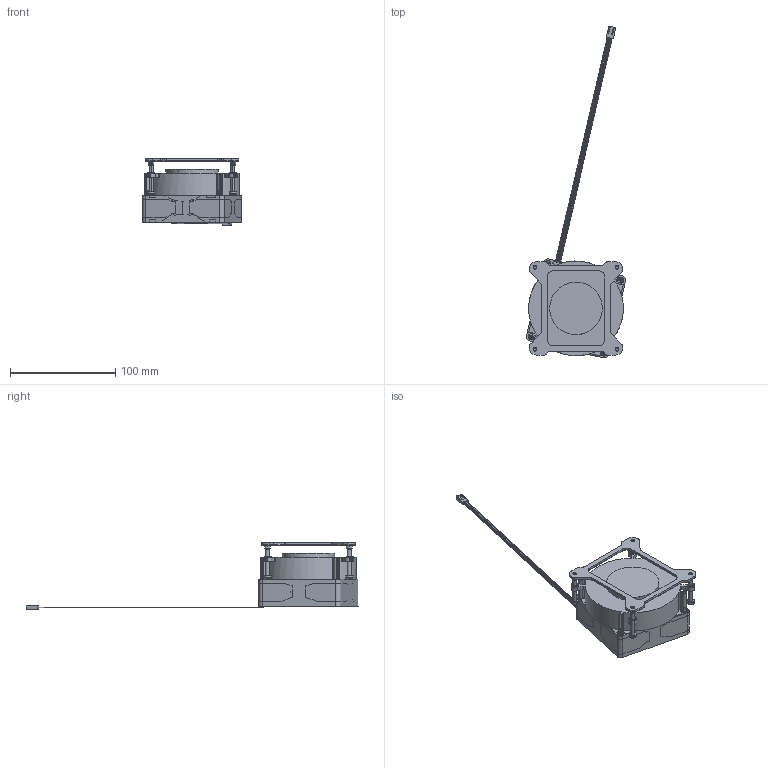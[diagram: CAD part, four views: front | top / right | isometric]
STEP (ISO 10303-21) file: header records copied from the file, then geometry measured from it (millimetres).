
FILE_DESCRIPTION((''),'2;1');
FILE_NAME('RGD3229-50-002_ME_ASM','2022-10-11T',('User'),(''),'PRO/ENGINEER BY PARAMETRIC TECHNOLOGY CORPORATION, 2017170','PRO/ENGINEER BY PARAMETRIC TECHNOLOGY CORPORATION, 2017170','');
FILE_SCHEMA(('CONFIG_CONTROL_DESIGN'));
Products named in the file (24): D90X25A_C_1; 23MM_CPB_1; 78X78X25_D90_CPB_1_ASM_1_ASM; 78X78X25_D90_CPB_ASM_1_ASM; DEAKTOP_SCREW_D7_30_8L_1; E-RING_1; DESKTOP_SCREW_ASSY_ASM_1_ASM; R8025_20191212_1; FAN_LEAF_1; MANIFOLD_SOLID_BREP_47147; MANIFOLD_SOLID_BREP_47266; MANIFOLD_SOLID_BREP_51725; 4PIN_1_ASM; R128025BUAF325AR_ASM_1_ASM; LABEL_R30_1_1; FAN_SCREW_T3X32MM_1; R128025BUAF325AR_25H_ASSY_ASM_1_ASM; 850-BP-1700_1; ADHESIVE_1; MYLAR_1; 850-BP1700_1_ASM_1_ASM; 850-BP1700_ASM_1_ASM; RGD3229-50-002_ASM_1_ASM; RGD3229-50-002_ME_ASM
Assembly tree (29 placements, depth 6):
  RGD3229-50-002_ME_ASM
    RGD3229-50-002_ASM_1_ASM
      78X78X25_D90_CPB_ASM_1_ASM
        78X78X25_D90_CPB_1_ASM_1_ASM
          D90X25A_C_1
          23MM_CPB_1
      DESKTOP_SCREW_ASSY_ASM_1_ASM  x4
        DEAKTOP_SCREW_D7_30_8L_1
        E-RING_1
      R128025BUAF325AR_25H_ASSY_ASM_1_ASM
        R128025BUAF325AR_ASM_1_ASM
          R8025_20191212_1
          FAN_LEAF_1
          4PIN_1_ASM
            MANIFOLD_SOLID_BREP_47147
            MANIFOLD_SOLID_BREP_47266
            MANIFOLD_SOLID_BREP_51725
        LABEL_R30_1_1
        FAN_SCREW_T3X32MM_1  x4
      850-BP1700_ASM_1_ASM
        850-BP1700_1_ASM_1_ASM
          850-BP-1700_1
          ADHESIVE_1
          MYLAR_1
Bounding box: 94.35 x 316.08 x 63.1 mm (x, y, z)
Volume: 329726.5 mm3; surface area: 110238.1 mm2
Topology: 22 solids, 26 shells, 2684 faces, 7612 edges, 5046 vertices
Faces by surface type: plane 1515, cylinder 841, bspline 97, extrusion 97, cone 61, torus 53, sphere 20
Entity records: 87597 total; most frequent: CARTESIAN_POINT 40623, ORIENTED_EDGE 10240, DIRECTION 8951, EDGE_CURVE 5126, VERTEX_POINT 3421, VECTOR 3103, LINE 3006, AXIS2_PLACEMENT_3D 2924
